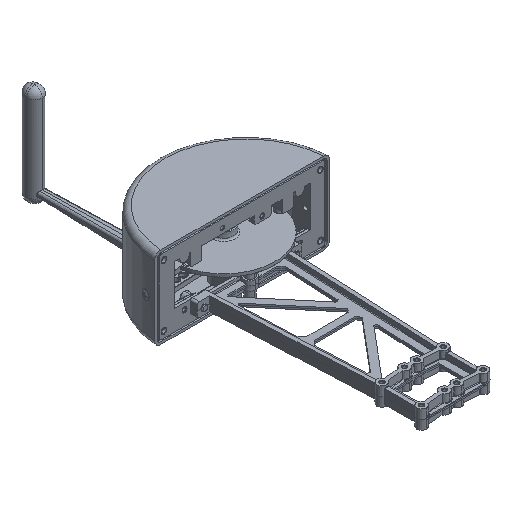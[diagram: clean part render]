
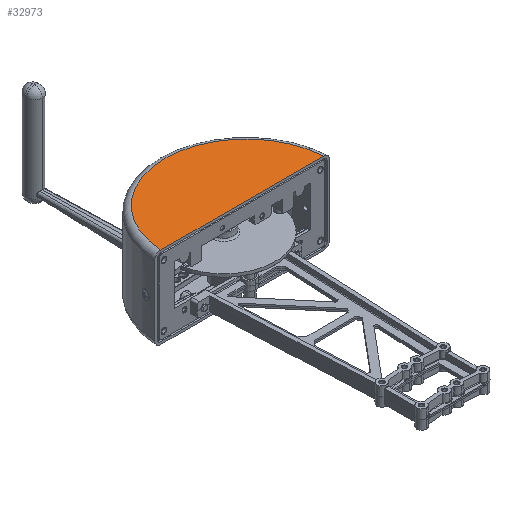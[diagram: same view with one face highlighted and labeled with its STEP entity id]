
A CAD part, isometric view. The second image highlights one B-rep face of the part: STEP entity #32973.
In plain terms, the highlighted planar face has unit normal (0, 0, 1).
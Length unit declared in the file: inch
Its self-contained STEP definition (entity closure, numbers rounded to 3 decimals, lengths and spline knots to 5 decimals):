
#1443 = ORIENTED_EDGE ( 'NONE', *, *, #6203, .F. ) ;
#3483 = VECTOR ( 'NONE', #9544, 39.37008 ) ;
#6160 = EDGE_CURVE ( 'NONE', #10593, #24936, #26695, .T. ) ;
#6203 = EDGE_CURVE ( 'NONE', #10593, #24936, #26309, .T. ) ;
#6417 = PLANE ( 'NONE',  #26187 ) ;
#6568 = ORIENTED_EDGE ( 'NONE', *, *, #6160, .T. ) ;
#7695 = AXIS2_PLACEMENT_3D ( 'NONE', #39094, #8908, #22315 ) ;
#8908 = DIRECTION ( 'NONE',  ( 0., 0., 1. ) ) ;
#9544 = DIRECTION ( 'NONE',  ( -1., 0., 0. ) ) ;
#10184 = CARTESIAN_POINT ( 'NONE',  ( 0., -0.17058, 1.6675 ) ) ;
#10593 = VERTEX_POINT ( 'NONE', #11715 ) ;
#11715 = CARTESIAN_POINT ( 'NONE',  ( 3.31619, 0., 1.6675 ) ) ;
#20545 = CARTESIAN_POINT ( 'NONE',  ( -3.31619, 0., 1.6675 ) ) ;
#22315 = DIRECTION ( 'NONE',  ( 1., 0., 0. ) ) ;
#23603 = DIRECTION ( 'NONE',  ( 0., 0., 1. ) ) ;
#24936 = VERTEX_POINT ( 'NONE', #20545 ) ;
#26187 = AXIS2_PLACEMENT_3D ( 'NONE', #10184, #23603, #37069 ) ;
#26309 = LINE ( 'NONE', #39750, #3483 ) ;
#26695 = CIRCLE ( 'NONE', #7695, 3.32058 ) ;
#30361 = EDGE_LOOP ( 'NONE', ( #1443, #6568 ) ) ;
#32973 = ADVANCED_FACE ( 'NONE', ( #36630 ), #6417, .T. ) ;
#36630 = FACE_OUTER_BOUND ( 'NONE', #30361, .T. ) ;
#37069 = DIRECTION ( 'NONE',  ( 1., 0., 0. ) ) ;
#39094 = CARTESIAN_POINT ( 'NONE',  ( 0., -0.17058, 1.6675 ) ) ;
#39750 = CARTESIAN_POINT ( 'NONE',  ( 3.5665, 0., 1.6675 ) ) ;
